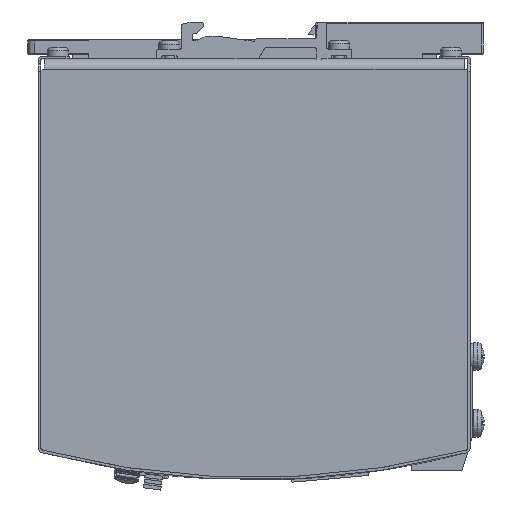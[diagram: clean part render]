
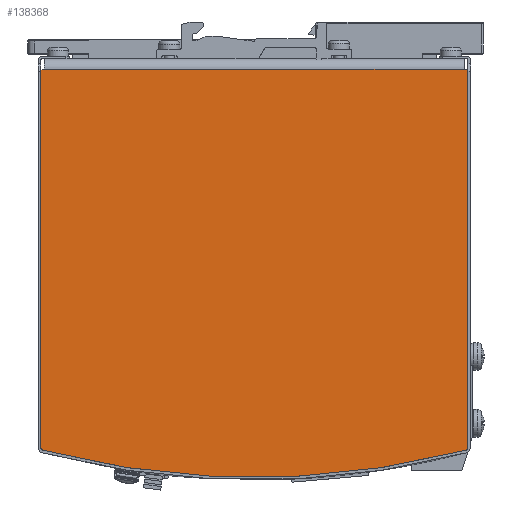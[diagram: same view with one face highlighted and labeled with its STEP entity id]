
A CAD part, left-side view. The second image highlights one B-rep face of the part: STEP entity #138368.
In plain terms, the highlighted planar face has unit normal (-1, 0, 0) as drawn and (0, 1, 0) by its records, which use the part's own axes.
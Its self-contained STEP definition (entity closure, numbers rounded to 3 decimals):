
#138063=CARTESIAN_POINT('',(112.177,27.5,60.777));
#138064=VERTEX_POINT('',#138063);
#138065=CARTESIAN_POINT('',(111.693,27.5,61.15));
#138066=VERTEX_POINT('',#138065);
#138067=CARTESIAN_POINT('',(111.693,27.5,60.65));
#138068=DIRECTION('',(0.0,-1.0,0.0));
#138069=DIRECTION('',(0.611,0.0,0.792));
#138070=AXIS2_PLACEMENT_3D('',#138067,#138068,#138069);
#138071=CIRCLE('',#138070,0.5);
#138072=EDGE_CURVE('',#138064,#138066,#138071,.T.);
#138115=CARTESIAN_POINT('',(112.177,27.5,-60.777));
#138116=VERTEX_POINT('',#138115);
#138123=CARTESIAN_POINT('',(-120.,27.5,0.));
#138124=DIRECTION('',(0.0,1.,0.0));
#138125=DIRECTION('',(-0.967,0.0,-0.255));
#138126=AXIS2_PLACEMENT_3D('',#138123,#138124,#138125);
#138127=CIRCLE('',#138126,240.0);
#138128=EDGE_CURVE('',#138064,#138116,#138127,.T.);
#138285=CARTESIAN_POINT('',(111.693,27.5,-61.15));
#138286=VERTEX_POINT('',#138285);
#138293=CARTESIAN_POINT('',(111.693,27.5,-60.65));
#138294=DIRECTION('',(0.0,-1.0,0.0));
#138295=DIRECTION('',(0.611,0.0,-0.792));
#138296=AXIS2_PLACEMENT_3D('',#138293,#138294,#138295);
#138297=CIRCLE('',#138296,0.5);
#138298=EDGE_CURVE('',#138286,#138116,#138297,.T.);
#138304=CARTESIAN_POINT('',(0.,27.5,-61.15));
#138305=DIRECTION('',(0.0,1.0,0.0));
#138306=DIRECTION('',(0.0,0.0,1.0));
#138307=AXIS2_PLACEMENT_3D('',#138304,#138305,#138306);
#138308=PLANE('',#138307);
#138309=ORIENTED_EDGE('',*,*,#138072,.F.);
#138310=ORIENTED_EDGE('',*,*,#138128,.T.);
#138311=ORIENTED_EDGE('',*,*,#138298,.F.);
#138312=CARTESIAN_POINT('',(3.1,27.5,-61.15));
#138313=VERTEX_POINT('',#138312);
#138314=CARTESIAN_POINT('',(3.1,27.5,-61.15));
#138315=DIRECTION('',(1.0,0.0,0.0));
#138316=VECTOR('',#138315,108.593);
#138317=LINE('',#138314,#138316);
#138318=EDGE_CURVE('',#138313,#138286,#138317,.T.);
#138319=ORIENTED_EDGE('',*,*,#138318,.F.);
#138320=CARTESIAN_POINT('',(3.1,27.5,-60.15));
#138321=VERTEX_POINT('',#138320);
#138322=CARTESIAN_POINT('',(3.1,27.5,-61.15));
#138323=DIRECTION('',(0.0,0.0,1.0));
#138324=VECTOR('',#138323,1.0);
#138325=LINE('',#138322,#138324);
#138326=EDGE_CURVE('',#138313,#138321,#138325,.T.);
#138327=ORIENTED_EDGE('',*,*,#138326,.T.);
#138328=CARTESIAN_POINT('',(3.,27.5,-60.15));
#138329=VERTEX_POINT('',#138328);
#138330=CARTESIAN_POINT('',(3.1,27.5,-60.15));
#138331=DIRECTION('',(-1.0,0.0,0.0));
#138332=VECTOR('',#138331,0.1);
#138333=LINE('',#138330,#138332);
#138334=EDGE_CURVE('',#138321,#138329,#138333,.T.);
#138335=ORIENTED_EDGE('',*,*,#138334,.T.);
#138336=CARTESIAN_POINT('',(3.,27.5,60.15));
#138337=VERTEX_POINT('',#138336);
#138338=CARTESIAN_POINT('',(3.,27.5,-60.15));
#138339=DIRECTION('',(0.0,0.0,1.0));
#138340=VECTOR('',#138339,120.3);
#138341=LINE('',#138338,#138340);
#138342=EDGE_CURVE('',#138329,#138337,#138341,.T.);
#138343=ORIENTED_EDGE('',*,*,#138342,.T.);
#138344=CARTESIAN_POINT('',(3.1,27.5,60.15));
#138345=VERTEX_POINT('',#138344);
#138346=CARTESIAN_POINT('',(3.,27.5,60.15));
#138347=DIRECTION('',(1.0,0.0,0.0));
#138348=VECTOR('',#138347,0.1);
#138349=LINE('',#138346,#138348);
#138350=EDGE_CURVE('',#138337,#138345,#138349,.T.);
#138351=ORIENTED_EDGE('',*,*,#138350,.T.);
#138352=CARTESIAN_POINT('',(3.1,27.5,61.15));
#138353=VERTEX_POINT('',#138352);
#138354=CARTESIAN_POINT('',(3.1,27.5,60.15));
#138355=DIRECTION('',(0.0,0.0,1.0));
#138356=VECTOR('',#138355,1.0);
#138357=LINE('',#138354,#138356);
#138358=EDGE_CURVE('',#138345,#138353,#138357,.T.);
#138359=ORIENTED_EDGE('',*,*,#138358,.T.);
#138360=CARTESIAN_POINT('',(3.1,27.5,61.15));
#138361=DIRECTION('',(1.0,0.0,0.0));
#138362=VECTOR('',#138361,108.593);
#138363=LINE('',#138360,#138362);
#138364=EDGE_CURVE('',#138353,#138066,#138363,.T.);
#138365=ORIENTED_EDGE('',*,*,#138364,.T.);
#138366=EDGE_LOOP('',(#138309,#138310,#138311,#138319,#138327,#138335,#138343,#138351,#138359,#138365));
#138367=FACE_OUTER_BOUND('',#138366,.T.);
#138368=ADVANCED_FACE('',(#138367),#138308,.T.);
